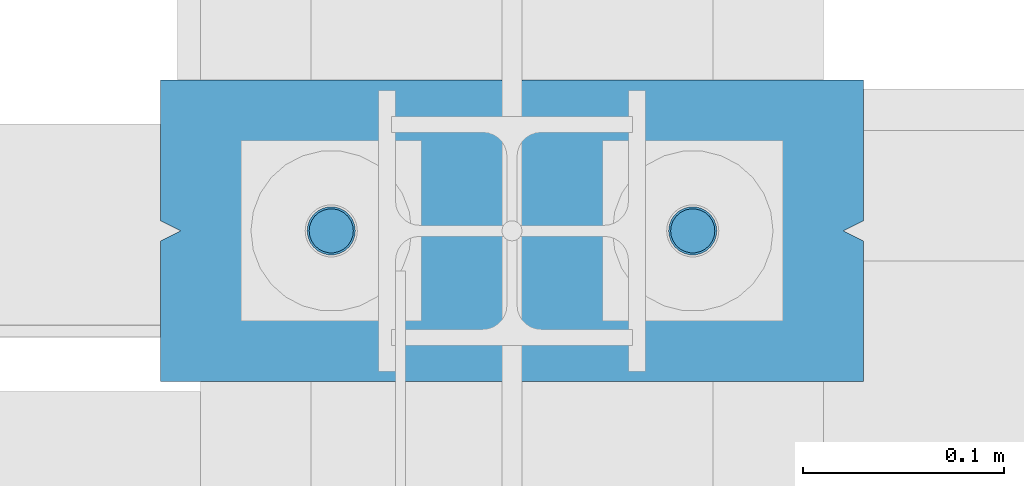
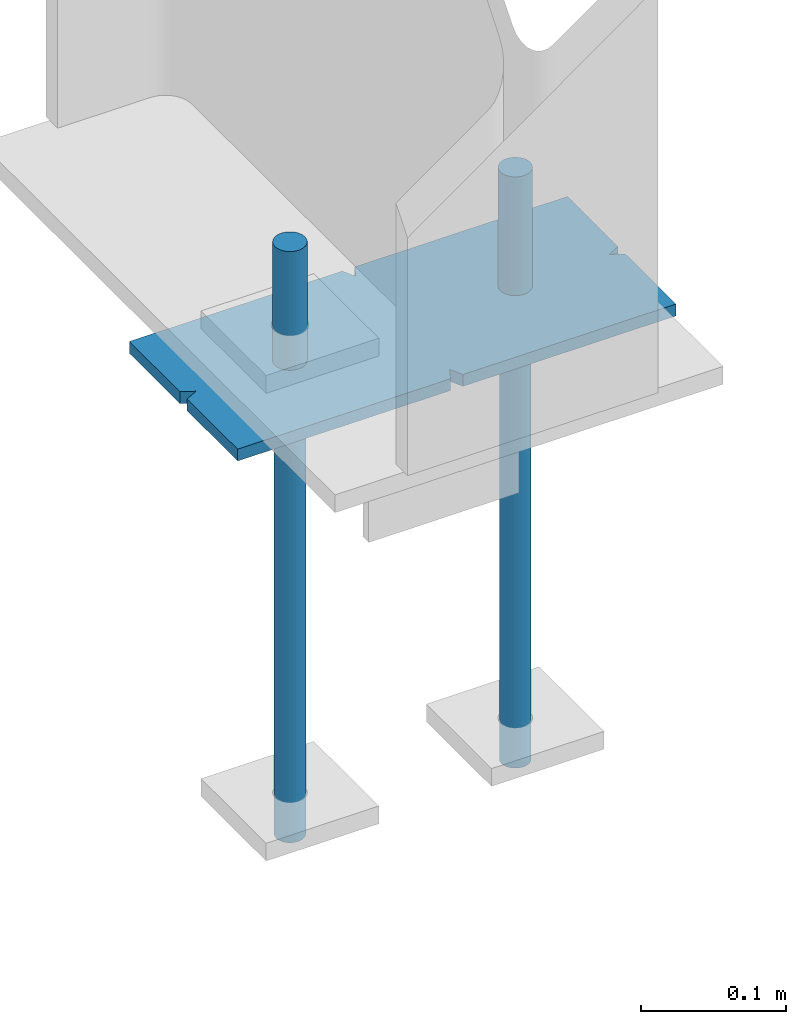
# One storey, part 87 of 123: 5 discrete accessories, 1 element without a shape of its own.
"""IFC2X3 building model written with IfcOpenShell, lengths in millimetres."""

from ifc_helpers import new_model, si_unit, frame, origin_with_axes, origin_2d_with_axis, place, context, subcontext, project, spatial, polyline, circle, outline, extrude, boolean, material, type_object, element, aggregate, save


model = new_model("IFC2X3")

# Units and contexts
model_context = context("Model", 3, precision=1e-05, world=origin_with_axes())
body_context = subcontext(model_context, "Body", "Model", "MODEL_VIEW")
ifc_project = project(units=[si_unit("LENGTHUNIT", "METRE", prefix="MILLI"), si_unit("AREAUNIT", "SQUARE_METRE"), si_unit("VOLUMEUNIT", "CUBIC_METRE"), si_unit("MASSUNIT", "GRAM", prefix="KILO"), si_unit("TIMEUNIT", "SECOND"), si_unit("PLANEANGLEUNIT", "RADIAN"), si_unit("SOLIDANGLEUNIT", "STERADIAN"), si_unit("THERMODYNAMICTEMPERATUREUNIT", "DEGREE_CELSIUS"), si_unit("LUMINOUSINTENSITYUNIT", "LUMEN")], contexts=[model_context])

# Site, building, storey
site_placement = place(None, origin_with_axes())
site = spatial("IfcSite", under=ifc_project, at=site_placement, Name="Undefined", CompositionType="ELEMENT")
building_placement = place(site_placement, origin_with_axes())
building = spatial("IfcBuilding", under=site, at=building_placement, Name="Undefined", CompositionType="ELEMENT")
storey_placement = place(building_placement, origin_with_axes())
storey = spatial("IfcBuildingStorey", under=building, at=storey_placement, Name="Undefined", CompositionType="ELEMENT", Elevation=0.0)

# Assembly, discrete accessories
assembly_placement = place(storey_placement, origin_with_axes())
assembly = element("IfcElementAssembly", 1, at=assembly_placement, inside=storey, Name="Steel Assembly", AssemblyPlace="NOTDEFINED", PredefinedType="RIGID_FRAME")
ifc_material = material(Name="STEEL/S235-E24")
discrete_accessory_type_1 = type_object("IfcDiscreteAccessoryType", Name="TIGE D'ANCRAGE")
discrete_accessory_1_placement = place(assembly_placement, frame((34189.9971504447, 0.0, -150.0), z_axis=(0.0, 1.0, 0.0), x_axis=(0.0, 0.0, -1.0)))
discrete_accessory_1 = element("IfcDiscreteAccessory", 2, at=discrete_accessory_1_placement, type_object=discrete_accessory_type_1, material=ifc_material, Name="TIGE D'ANCRAGE", ObjectType="D24", context=body_context, shape_type="SweptSolid", body=[
    extrude(circle(Radius=12.0, at=origin_2d_with_axis()), frame((150.0, 0.0, 0.0), z_axis=(-1.0, 0.0, 0.0), x_axis=(0.0, -1.0, 0.0)), (0.0, 0.0, 1.0), 150.0),
])
discrete_accessory_2_placement = place(assembly_placement, frame((34189.9971504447, 0.0, -300.0), z_axis=(0.0, 1.0, 0.0), x_axis=(0.0, 0.0, -1.0)))
discrete_accessory_2 = element("IfcDiscreteAccessory", 3, at=discrete_accessory_2_placement, type_object=discrete_accessory_type_1, material=ifc_material, Name="TIGE D'ANCRAGE", ObjectType="D22", context=body_context, shape_type="SweptSolid", body=[
    extrude(circle(Radius=11.0, at=origin_2d_with_axis()), frame((350.0, 0.0, 0.0), z_axis=(-1.0, 0.0, 0.0), x_axis=(0.0, -1.0, 0.0)), (0.0, 0.0, 1.0), 350.0),
])
discrete_accessory_3_placement = place(assembly_placement, frame((34369.9971504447, 0.0, -150.0), z_axis=(0.0, 1.0, 0.0), x_axis=(0.0, 0.0, -1.0)))
discrete_accessory_3 = element("IfcDiscreteAccessory", 4, at=discrete_accessory_3_placement, type_object=discrete_accessory_type_1, material=ifc_material, Name="TIGE D'ANCRAGE", ObjectType="D24", context=body_context, shape_type="SweptSolid", body=[
    extrude(circle(Radius=12.0, at=origin_2d_with_axis()), frame((150.0, 0.0, 0.0), z_axis=(-1.0, 0.0, 0.0), x_axis=(0.0, -1.0, 0.0)), (0.0, 0.0, 1.0), 150.0),
])
discrete_accessory_4_placement = place(assembly_placement, frame((34369.9971504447, 0.0, -300.0), z_axis=(0.0, 1.0, 0.0), x_axis=(0.0, 0.0, -1.0)))
discrete_accessory_4 = element("IfcDiscreteAccessory", 5, at=discrete_accessory_4_placement, type_object=discrete_accessory_type_1, material=ifc_material, Name="TIGE D'ANCRAGE", ObjectType="D22", context=body_context, shape_type="SweptSolid", body=[
    extrude(circle(Radius=11.0, at=origin_2d_with_axis()), frame((350.0, 0.0, 0.0), z_axis=(-1.0, 0.0, 0.0), x_axis=(0.0, -1.0, 0.0)), (0.0, 0.0, 1.0), 350.0),
])
discrete_accessory_type_2 = type_object("IfcDiscreteAccessoryType", Name="PRESCELLEMENT PS24")
discrete_accessory_5_placement = place(assembly_placement, frame((34455.0, 0.0, -255.0), z_axis=(0.0, 0.0, 1.0), x_axis=(-1.0, 0.0, 0.0)))
discrete_accessory_5 = element("IfcDiscreteAccessory", 6, at=discrete_accessory_5_placement, type_object=discrete_accessory_type_2, material=ifc_material, Name="PRESCELLEMENT PS24", ObjectType="PL10*150", context=body_context, shape_type="CSG", body=[
    boolean("DIFFERENCE", boolean("DIFFERENCE", boolean("DIFFERENCE", boolean("DIFFERENCE", extrude(outline(polyline([(175.000000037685, -65.0000000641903), (169.999999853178, -74.9999999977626), (0.0, -75.0), (0.0, -5.0), (9.99999993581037, -3.76858224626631e-08), (0.0, 5.00000014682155), (0.0, 75.0), (170.0, 75.0), (174.999999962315, 65.0000000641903), (180.000000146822, 75.0), (350.0, 75.0), (350.0, 5.00000018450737), (340.0, 0.0), (350.0, -4.99999996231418), (350.0, -75.0), (180.0, -75.0), (175.000000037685, -65.0000000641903)])), frame((0.0, 0.0, -5.0), z_axis=(0.0, 0.0, 1.0), x_axis=(1.0, 0.0, 0.0)), (0.0, 0.0, 1.0), 10.0), extrude(outline(polyline([(0.0, 0.0), (11.1803398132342, 1.2732925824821e-11), (4.47213602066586, 8.94427204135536), (0.0, 0.0)])), frame((0.0, -5.0, -7.5), z_axis=(0.0, 0.0, 1.0), x_axis=(0.89442719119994, 0.44721359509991, 0.0)), (0.0, 0.0, 1.0), 15.0)), extrude(outline(polyline([(0.0, 0.0), (11.1803398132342, 1.2732925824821e-11), (4.47213602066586, 8.94427204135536), (0.0, 0.0)])), frame((180.0, -75.0, -7.5), z_axis=(0.0, 0.0, 1.0), x_axis=(-0.447213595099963, 0.894427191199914, 0.0)), (0.0, 0.0, 1.0), 15.0)), extrude(outline(polyline([(0.0, 0.0), (11.1803398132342, 1.2732925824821e-11), (6.70820379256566, 8.94427204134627), (0.0, 0.0)])), frame((340.0, 0.0, -7.5), z_axis=(0.0, 0.0, 1.0), x_axis=(0.89442719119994, -0.44721359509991, 0.0)), (0.0, 0.0, 1.0), 15.0)), extrude(outline(polyline([(0.0, 0.0), (11.1803398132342, 1.2732925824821e-11), (4.47213602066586, 8.94427204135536), (0.0, 0.0)])), frame((170.0, 75.0, -7.5), z_axis=(0.0, 0.0, 1.0), x_axis=(0.447213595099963, -0.894427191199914, 0.0)), (0.0, 0.0, 1.0), 15.0)),
])
aggregate(assembly, [discrete_accessory_1, discrete_accessory_2, discrete_accessory_3, discrete_accessory_4, discrete_accessory_5])

save(model, "model.ifc")
